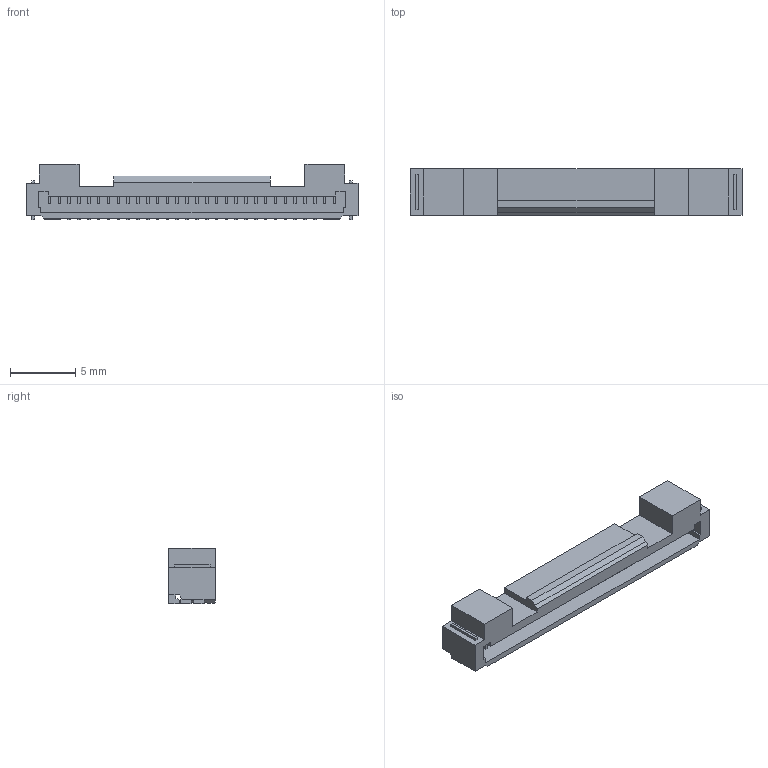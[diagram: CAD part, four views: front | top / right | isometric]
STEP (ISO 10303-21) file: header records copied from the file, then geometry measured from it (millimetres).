
FILE_DESCRIPTION(('Creo Elements/Direct Modeling STEP Export'),'2;1');
FILE_NAME('P3E780_FJC11-30L.stp','2024-04-16T15:48:29',(''),(''),'Creo Elements/Direct Modeling STEP processor for AP214 (Solid Model)','Creo Elements/Direct Modeling 20.6 25-Mar-2023 (C) Parametric Technology GmbH','');
FILE_SCHEMA(('AUTOMOTIVE_DESIGN { 1 0 10303 214 1 1 1 1 }'));
Length unit declared in the file: millimetre
Products named in the file (2): FJC11-30L
Assembly tree (1 placements, depth 2):
  FJC11-30L
    FJC11-30L
Bounding box: 25.35 x 3.55 x 4.2 mm (x, y, z)
Volume: 208.3 mm3; surface area: 576.5 mm2
Topology: 1 solids, 1 shells, 439 faces, 1300 edges, 866 vertices
Faces by surface type: plane 439
Entity records: 13857 total; most frequent: ORIENTED_EDGE 2600, CARTESIAN_POINT 2486, DIRECTION 1999, EDGE_CURVE 1300, VECTOR 1241, LINE 1241, VERTEX_POINT 866, EDGE_LOOP 442
